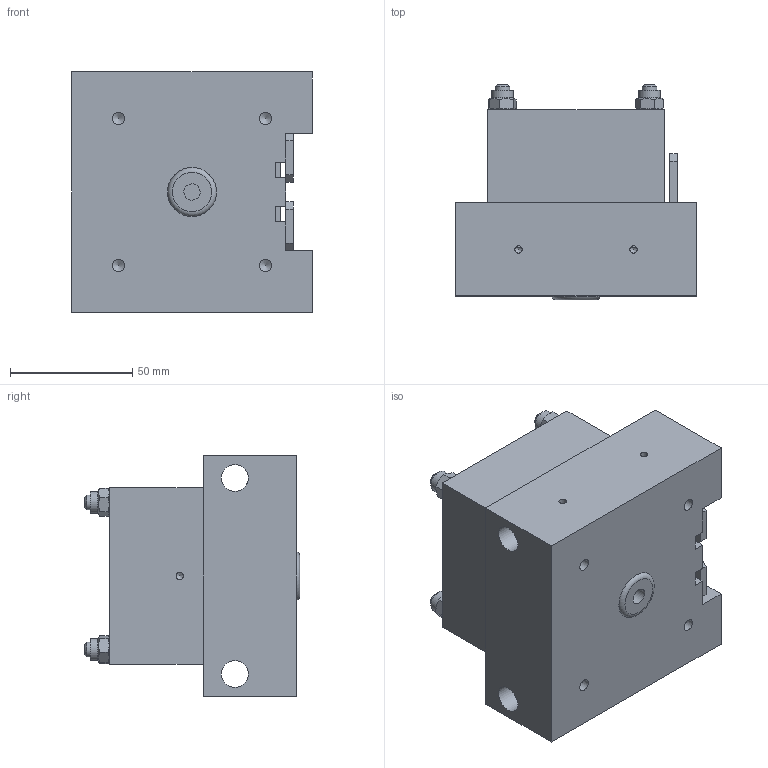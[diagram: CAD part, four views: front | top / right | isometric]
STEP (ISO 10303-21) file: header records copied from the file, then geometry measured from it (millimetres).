
FILE_DESCRIPTION((''),'2;1');
FILE_NAME('C:\VaultWork\Zeichnungen\Maßblätter\Multizylinder\M 63\M63-12\M01850-4-0 Maßblatt Multizylinder M63-2-12 berührungslose Abfrage.stp','2013-12-18T13:55:42',('Sergeew'),(''),'Autodesk Inventor 2012','Autodesk Inventor 2012','');
FILE_SCHEMA(('AUTOMOTIVE_DESIGN { 1 0 10303 214 1 1 1 1 }'));
Length unit declared in the file: millimetre
Products named in the file (1): M01850-4-0 Maßblatt Multizylinder M63-2-12 berührungslose Abfrage
Bounding box: 98 x 88 x 98 mm (x, y, z)
Volume: 526193.1 mm3; surface area: 60138.2 mm2
Topology: 1 solids, 5 shells, 163 faces, 399 edges, 261 vertices
Faces by surface type: plane 103, cylinder 39, cone 20, torus 1
Full cylindrical faces by diameter (mm): 3 x3, 4.3 x4, 4.917 x4, 6 x8, 6.647 x1, 7 x4, 8.566 x2, 8.9 x4, 11 x2, 15 x2, 20 x1
Entity records: 4390 total; most frequent: CARTESIAN_POINT 886, DIRECTION 678, ORIENTED_EDGE 630, EDGE_CURVE 315, AXIS2_PLACEMENT_3D 251, EDGE_LOOP 250, VERTEX_POINT 233, VECTOR 176
